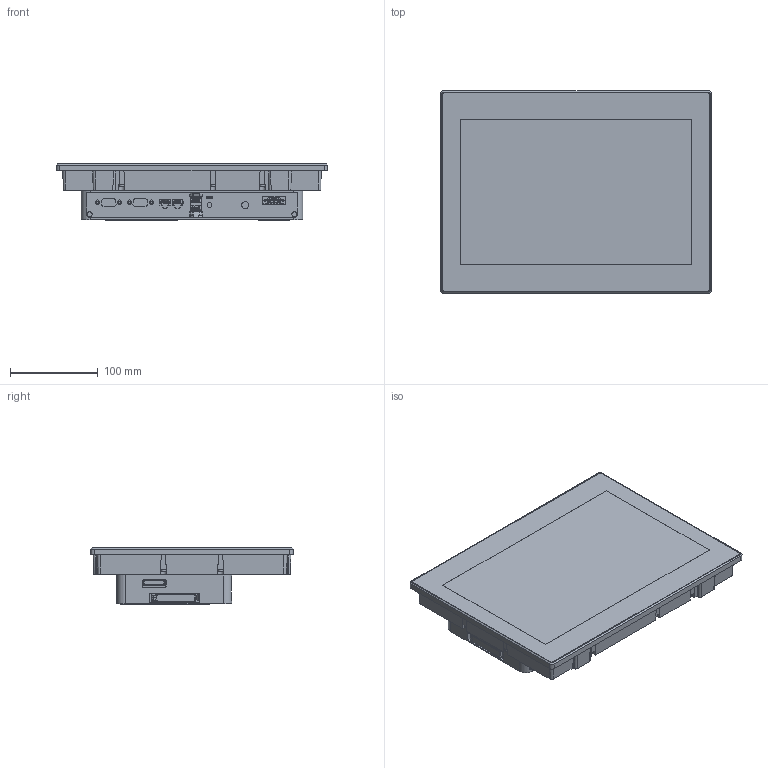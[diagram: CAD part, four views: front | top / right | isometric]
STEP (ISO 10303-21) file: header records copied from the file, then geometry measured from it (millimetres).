
FILE_DESCRIPTION (( 'STEP AP203' ), '1' );
FILE_NAME ('PFXGP6640WCDI_3D_simpl.STEP', '2024-05-30T09:28:47', ( '' ), ( '' ), 'SwSTEP 2.0', 'SolidWorks 2017', '' );
FILE_SCHEMA (( 'CONFIG_CONTROL_DESIGN' ));
Length unit declared in the file: millimetre
Products named in the file (1): PFXGP6640WCDI_3D_simpl
Bounding box: 308.5 x 230.5 x 64.28 mm (x, y, z)
Volume: 3022834.4 mm3; surface area: 232570.3 mm2
Topology: 7 solids, 13 shells, 2074 faces, 5846 edges, 3844 vertices
Faces by surface type: plane 1508, cylinder 420, bspline 111, cone 35
Full cylindrical faces by diameter (mm): 2.5 x2, 2.8 x2, 2.845 x4, 3.5 x4, 4 x4, 4.1 x8, 5.6 x19, 8 x5, 8.454 x6
Entity records: 78589 total; most frequent: CARTESIAN_POINT 26739, ORIENTED_EDGE 11506, DIRECTION 9429, EDGE_CURVE 5753, LINE 4433, VECTOR 4433, VERTEX_POINT 3822, AXIS2_PLACEMENT_3D 2498
